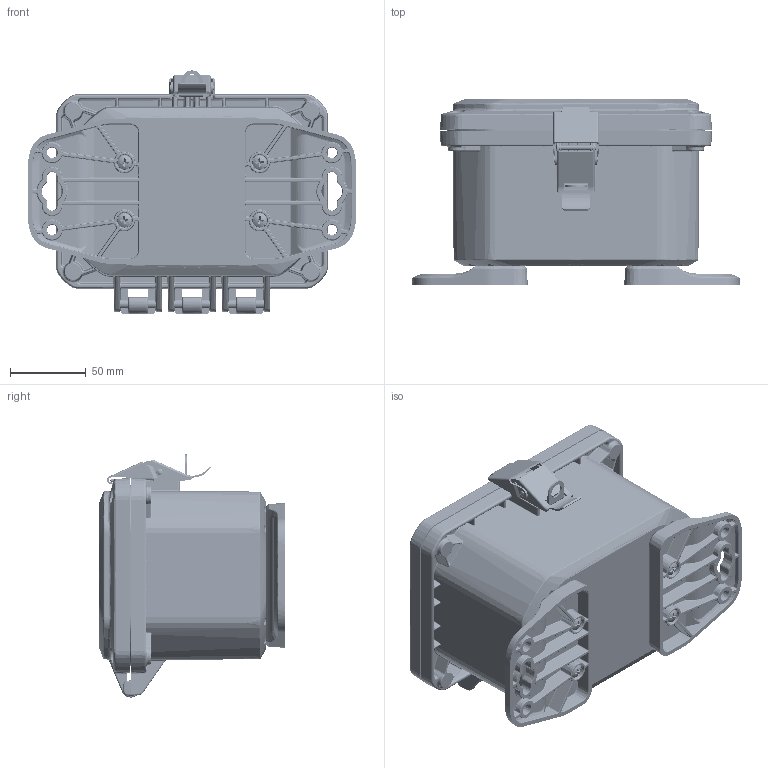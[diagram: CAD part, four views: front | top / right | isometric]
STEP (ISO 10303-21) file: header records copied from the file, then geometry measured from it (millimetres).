
FILE_DESCRIPTION (( 'STEP AP214' ), '1' );
FILE_NAME ('ZH-060404-02.STEP', '2024-10-25T16:19:57', ( '' ), ( '' ), 'SwSTEP 2.0', 'SolidWorks 2024', '' );
FILE_SCHEMA (( 'AUTOMOTIVE_DESIGN' ));
Length unit declared in the file: inch
Products named in the file (17): ZH-01L5; ZH-01L2; Z_-06043B_ZH-06043B-01; Z_-06041C_ZH-06041C-01; SCREWS-046_SCREWS-046; LABEL-104; ZH-95P_DEFAULT; ZH-060404-02; ZH-01L3; INSERTS-4; ZH-0604G; Z_-06041CG_ZH-06041CG-01; Z_-06043BI_ZH-06043BI-01; ZH-04F_ZH-04F-01; ZH-01L1; ZH-01L; ZH-01L4
Assembly tree (34 placements, depth 3):
  ZH-060404-02
    Z_-06043BI_ZH-06043BI-01
      Z_-06043B_ZH-06043B-01
      INSERTS-4  x12
      LABEL-104
    Z_-06041CG_ZH-06041CG-01
      Z_-06041C_ZH-06041C-01
      ZH-0604G
    ZH-95P_DEFAULT  x4
    ZH-01L
      ZH-01L1
      ZH-01L2
      ZH-01L3
      ZH-01L4
      ZH-01L5
    SCREWS-046_SCREWS-046  x4
    ZH-04F_ZH-04F-01  x2
Bounding box: 215.9 x 122.68 x 159.98 mm (x, y, z)
Volume: 541146.1 mm3; surface area: 325267.8 mm2
Topology: 35 solids, 35 shells, 7759 faces, 18934 edges, 11220 vertices
Faces by surface type: bspline 2285, cylinder 1558, plane 1548, cone 1182, torus 940, sphere 246
Entity records: 250606 total; most frequent: CARTESIAN_POINT 141676, ORIENTED_EDGE 24862, DIRECTION 20468, EDGE_CURVE 12431, AXIS2_PLACEMENT_3D 8584, VERTEX_POINT 7258, EDGE_LOOP 5431, ADVANCED_FACE 5288
